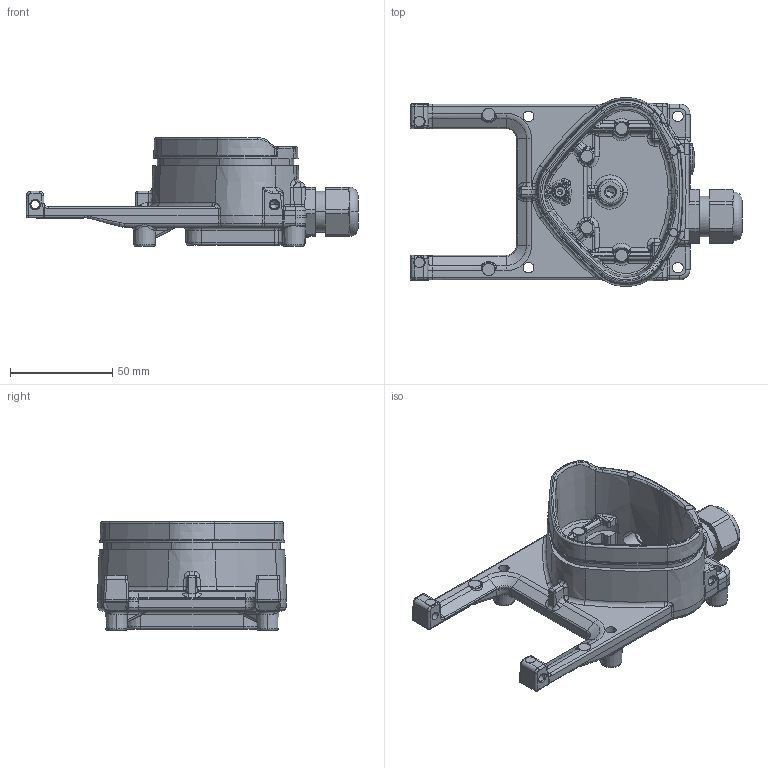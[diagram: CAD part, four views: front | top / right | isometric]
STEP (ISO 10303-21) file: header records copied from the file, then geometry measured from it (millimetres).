
FILE_DESCRIPTION(('CATIA V5 STEP 214'),'2;1');
FILE_NAME('C:\Temp\ddxv6\122143\ADAPTER_MA_WANDMONTAGE.stp','2010-11-19T09:24:03+00:00',('Leopold Kostal'),('Kostal GmbH'),'CATIA Version 5 Release 19 SP 8 (IN-10)','CATIA V5 STEP AP214','none');
FILE_SCHEMA(('AUTOMOTIVE_DESIGN { 1 0 10303 214 1 1 1 1 }'));
Length unit declared in the file: millimetre
Products named in the file (1): 10009699-1-0008A_AllCATPart
Bounding box: 162.4 x 92.46 x 53.3 mm (x, y, z)
Volume: 126474.9 mm3; surface area: 52296.3 mm2
Topology: 4 solids, 4 shells, 1610 faces, 4013 edges, 2374 vertices
Faces by surface type: bspline 398, plane 387, cylinder 314, torus 182, extrusion 171, cone 130, sphere 28
Entity records: 72172 total; most frequent: CARTESIAN_POINT 41030, ORIENTED_EDGE 7860, EDGE_CURVE 3930, DIRECTION 3865, VERTEX_POINT 2374, AXIS2_PLACEMENT_3D 1708, EDGE_LOOP 1676, B_SPLINE_CURVE_WITH_KNOTS 1640
